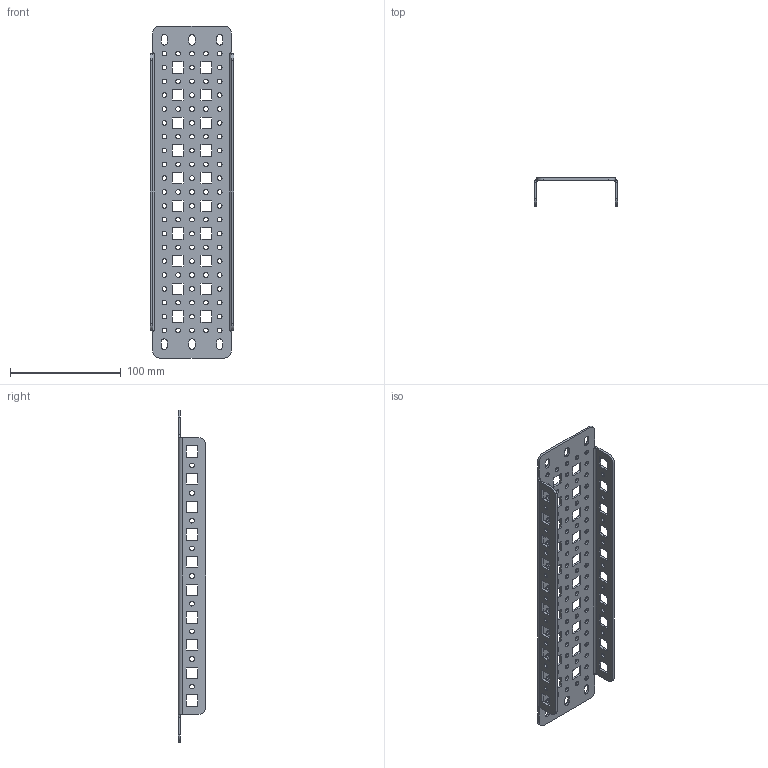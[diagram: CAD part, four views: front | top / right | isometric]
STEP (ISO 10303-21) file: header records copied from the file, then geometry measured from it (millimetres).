
FILE_DESCRIPTION((''),'2;1');
FILE_NAME('IMS-HORIZONTAL-MOUNTING-GRID','2016-09-13T',('dougp'),('SAGINAW CONTROL & ENGINEERING'),'PRO/ENGINEER BY PARAMETRIC TECHNOLOGY CORPORATION, 2012070','PRO/ENGINEER BY PARAMETRIC TECHNOLOGY CORPORATION, 2012070','');
FILE_SCHEMA(('AUTOMOTIVE_DESIGN { 1 0 10303 214 1 1 1 1 }'));
Length unit declared in the file: inch
Products named in the file (1): IMS-HORIZONTAL-MOUNTING-GRID
Bounding box: 75 x 25 x 300 mm (x, y, z)
Volume: 53820.1 mm3; surface area: 62107.4 mm2
Topology: 1 solids, 1 shells, 596 faces, 1766 edges, 1172 vertices
Faces by surface type: cylinder 390, plane 194, bspline 12
Entity records: 26499 total; most frequent: CARTESIAN_POINT 3852, DIRECTION 3714, ORIENTED_EDGE 3532, PRESENTATION_STYLE_ASSIGNMENT 1767, STYLED_ITEM 1767, CURVE_STYLE 1766, EDGE_CURVE 1766, AXIS2_PLACEMENT_3D 1372
